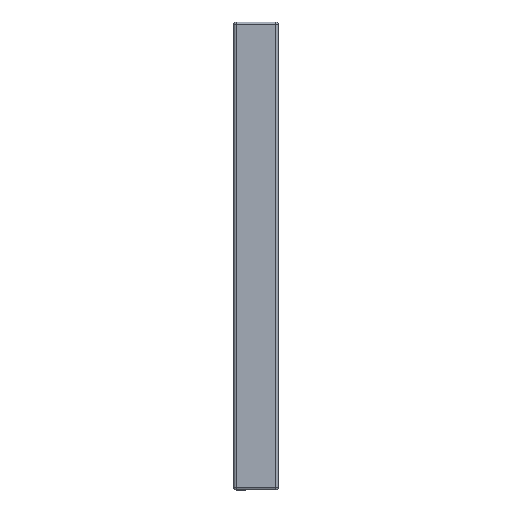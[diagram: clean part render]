
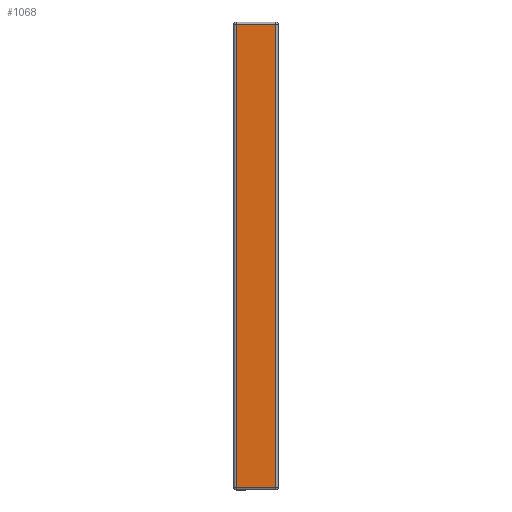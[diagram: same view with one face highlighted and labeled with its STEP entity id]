
A CAD part, front view. The second image highlights one B-rep face of the part: STEP entity #1068.
In plain terms, the highlighted planar face has unit normal (0, -1, 0).
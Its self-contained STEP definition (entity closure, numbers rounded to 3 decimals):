
#559 = EDGE_CURVE ( 'NONE', #8074, #560, #2694, .T. ) ;
#560 = VERTEX_POINT ( 'NONE', #2685 ) ;
#604 = EDGE_CURVE ( 'NONE', #8088, #8074, #2742, .T. ) ;
#625 = VERTEX_POINT ( 'NONE', #2836 ) ;
#627 = EDGE_CURVE ( 'NONE', #625, #8088, #2835, .T. ) ;
#1068 = ADVANCED_FACE ( 'NONE', ( #3928 ), #3927, .F. ) ;
#1069 = EDGE_LOOP ( 'NONE', ( #1070, #1071, #1073, #1074 ) ) ;
#1070 = ORIENTED_EDGE ( 'NONE', *, *, #627, .F. ) ;
#1071 = ORIENTED_EDGE ( 'NONE', *, *, #1072, .T. ) ;
#1072 = EDGE_CURVE ( 'NONE', #625, #560, #3922, .T. ) ;
#1073 = ORIENTED_EDGE ( 'NONE', *, *, #559, .F. ) ;
#1074 = ORIENTED_EDGE ( 'NONE', *, *, #604, .F. ) ;
#2685 = CARTESIAN_POINT ( 'NONE',  ( 1.347, -2.177, -0.3 ) ) ;
#2686 = DIRECTION ( 'NONE',  ( 1., 0., 0. ) ) ;
#2687 = VECTOR ( 'NONE', #2686, 1000. ) ;
#2688 = CARTESIAN_POINT ( 'NONE',  ( -1.103, -2.177, -0.3 ) ) ;
#2694 = LINE ( 'NONE', #2688, #2687 ) ;
#2740 = VECTOR ( 'NONE', #2782, 1000. ) ;
#2741 = CARTESIAN_POINT ( 'NONE',  ( -3.553, -2.177, -29. ) ) ;
#2742 = LINE ( 'NONE', #2741, #2740 ) ;
#2782 = DIRECTION ( 'NONE',  ( 0., 0., 1. ) ) ;
#2832 = DIRECTION ( 'NONE',  ( -1., 0., 0. ) ) ;
#2833 = VECTOR ( 'NONE', #2832, 1000. ) ;
#2834 = CARTESIAN_POINT ( 'NONE',  ( -1.103, -2.177, -57.7 ) ) ;
#2835 = LINE ( 'NONE', #2834, #2833 ) ;
#2836 = CARTESIAN_POINT ( 'NONE',  ( 1.347, -2.177, -57.7 ) ) ;
#3919 = DIRECTION ( 'NONE',  ( 0., 0., 1. ) ) ;
#3920 = VECTOR ( 'NONE', #3919, 1000. ) ;
#3921 = CARTESIAN_POINT ( 'NONE',  ( 1.347, -2.177, -29. ) ) ;
#3922 = LINE ( 'NONE', #3921, #3920 ) ;
#3923 = DIRECTION ( 'NONE',  ( 0., 0., 1. ) ) ;
#3924 = DIRECTION ( 'NONE',  ( 0., 1., 0. ) ) ;
#3925 = CARTESIAN_POINT ( 'NONE',  ( -3.553, -2.177, -57.7 ) ) ;
#3926 = AXIS2_PLACEMENT_3D ( 'NONE', #3925, #3924, #3923 ) ;
#3927 = PLANE ( 'NONE',  #3926 ) ;
#3928 = FACE_OUTER_BOUND ( 'NONE', #1069, .T. ) ;
#6742 = CARTESIAN_POINT ( 'NONE',  ( -3.553, -2.177, -0.3 ) ) ;
#6791 = CARTESIAN_POINT ( 'NONE',  ( -3.553, -2.177, -57.7 ) ) ;
#8074 = VERTEX_POINT ( 'NONE', #6742 ) ;
#8088 = VERTEX_POINT ( 'NONE', #6791 ) ;
